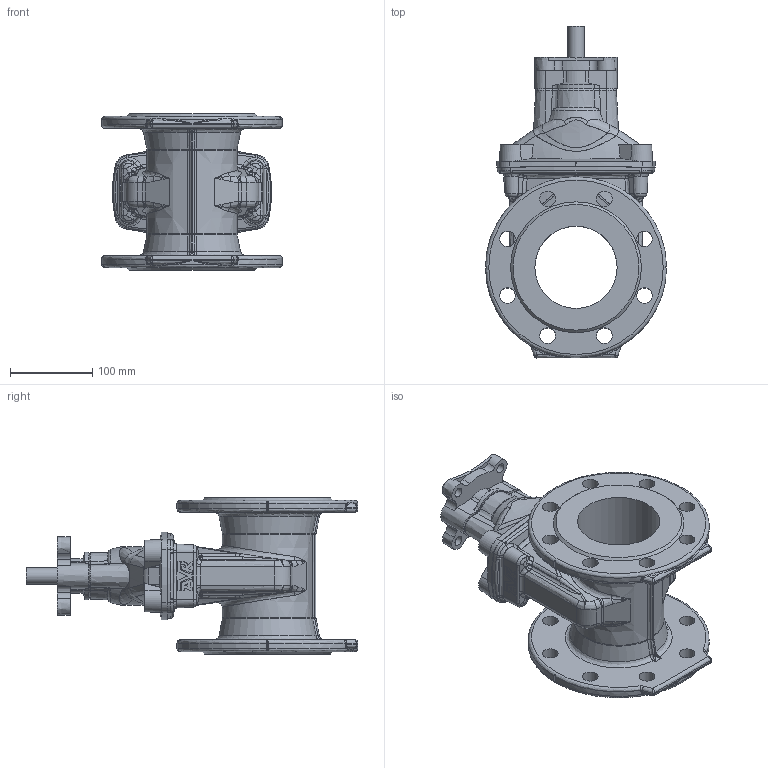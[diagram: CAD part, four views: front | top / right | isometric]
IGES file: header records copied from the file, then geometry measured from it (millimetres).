
Start section: SolidWorks IGES file using analytic representation for surfaces
Global section: file name: \\avksan2\techshare\PBM outline export from Enovia\O_06_42_DN100_X1XXX_REV02.igs; native system: SolidWorks 2022; preprocessor: SolidWorks 2022; author: pbm; date: 251218.075454; units: millimetre
Bounding box: 219.98 x 403.5 x 190 mm (x, y, z)
Surface area: 369146.7 mm2 (no closed solid volume)
Topology: 0 solids, 0 shells, 654 faces, 3347 edges, 3280 vertices
Faces by surface type: bspline 402, revolution 252
